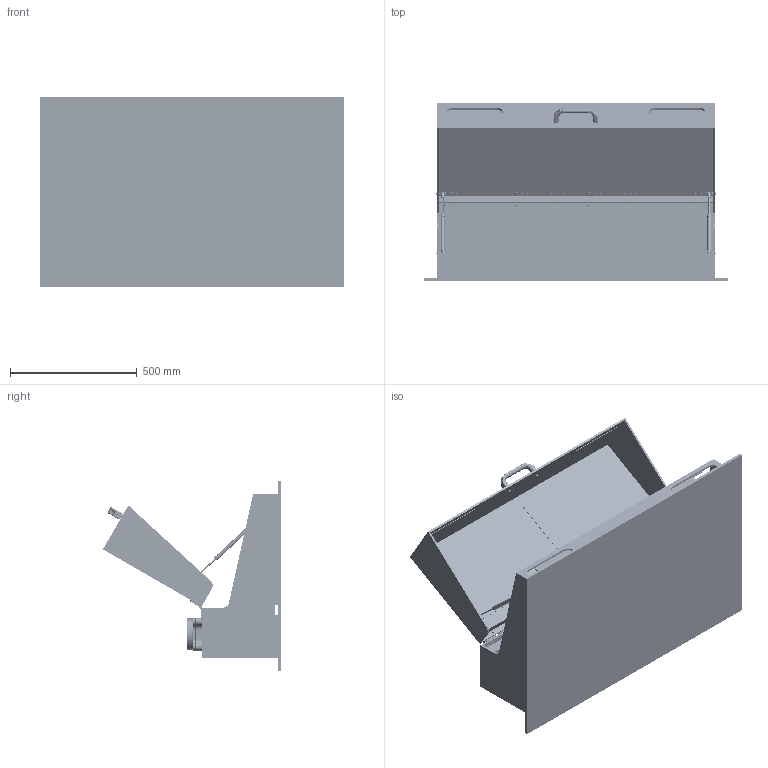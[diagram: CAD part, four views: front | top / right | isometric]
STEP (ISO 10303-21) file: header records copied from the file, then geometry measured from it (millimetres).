
FILE_DESCRIPTION(/* description */ (''),/* implementation_level */ '2;1');
FILE_NAME(/* name */ 'burkolat.stp',/* time_stamp */ '2023-11-05T18:12:05+01:00',/* author */ ('user'),/* organization */ (''),/* preprocessor_version */ 'ST-DEVELOPER v19.2',/* originating_system */ 'Autodesk Inventor 2023',/* authorisation */ '');
FILE_SCHEMA (('AUTOMOTIVE_DESIGN { 1 0 10303 214 3 1 1 }'));
Products named in the file (47): burkolat; alap; 3lap bal; 4lap; 3lap jobb; 10lap; 7lap bal; 7lap jobb; 8lap; 5lap bal; 5lap jobb; 2szell; parametric_butt_hinge_3-8_20230924-37725-1yqrrsh; Ventilátortartó összeállítás; Ventilátortartó alap; Ventilátortartó tető; case_fan_120mm; 1szell; fedél; 2lap bal; 2lap jobb; 9lap; 6lap bal; 1lap; 6lap bal_1; 12lap; 11lap; plexi1; plexi2; parametric_butt_hinge_3-8_20230924-37725-1yqrrsh (1); ISO 10642 - M4 x  20; ISO 4035 - M4; ISO 7089 - 4; 3316_1543; 3316_1543_01; 3316_1543_02; 3316_1543_03; 3316_1543_04; 10322383; ISO 7089 - 6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
Assembly tree (323 placements, depth 4):
  burkolat
    alap
      3lap bal  x2
      4lap  x2
      3lap jobb  x2
      10lap  x4
      7lap bal  x2
      7lap jobb  x2
      8lap  x2
      5lap bal  x2
      5lap jobb  x2
      12lap  x4
      11lap  x2
      2szell  x8
      parametric_butt_hinge_3-8_20230924-37725-1yqrrsh  x6
      ISO 10642 - M4 x  20  x36
      ISO 4035 - M4  x36
      ISO 7089 - 4  x36
      10322383  x2
    Ventilátortartó összeállítás  x2
      Ventilátortartó alap
      Ventilátortartó tető
      case_fan_120mm
    1szell  x2
    fedél
      2lap bal  x2
      2lap jobb  x2
      1lap  x2
      9lap  x4
      6lap bal  x2
      6lap bal_1  x2
      12lap  x4
      11lap  x2
      plexi1  x2
      plexi2  x2
      ISO 10642 - M4 x  20  x36
      ISO 4035 - M4  x36
      ISO 7089 - 4  x36
      parametric_butt_hinge_3-8_20230924-37725-1yqrrsh (1)  x6
      3316_1543
        3316_1543_01
        3316_1543_02
        3316_1543_03
        3316_1543_04
      10322383  x2
      ISO 7089 - 6  x2
      ISO 4017 - M6 x 20  x2
      ISO 4247 - 5,1 x 10  x2
    MDF lap
    EF-B002ZB-Sodemann  x4
    EF-BS010PN-Sodemann  x4
    1000 Tryk Gasfjedre b  x2
    1000 Tryk Gasfjedre a  x2
Bounding box: 1200 x 702.71 x 750 mm (x, y, z)
Volume: 24464501.2 mm3; surface area: 9603769.7 mm2
Topology: 331 solids, 331 shells, 15199 faces, 41691 edges, 27160 vertices
Faces by surface type: plane 11292, cylinder 1722, bspline 897, cone 668, torus 528, sphere 92
Full cylindrical faces by diameter (mm): 3.242 x72, 4 x72, 4.2 x144, 4.3 x72, 4.917 x52, 5.1 x2, 5.8 x18, 5.999 x14, 6 x72, 6.02 x2, 6.2 x50, 6.4 x2, 7.8 x16, 8 x72, 8.88 x2, 9 x72, 9.1 x12, 9.6 x2, 10 x10, 12 x2, 12.1 x4, 13 x2, 13.5 x4, 15 x4, 42 x4, 116 x2, 120 x6, 125 x2
Entity records: 210991 total; most frequent: CARTESIAN_POINT 57594, ORIENTED_EDGE 33180, DIRECTION 27484, EDGE_CURVE 16590, LINE 12776, VECTOR 12776, VERTEX_POINT 10837, AXIS2_PLACEMENT_3D 7354
